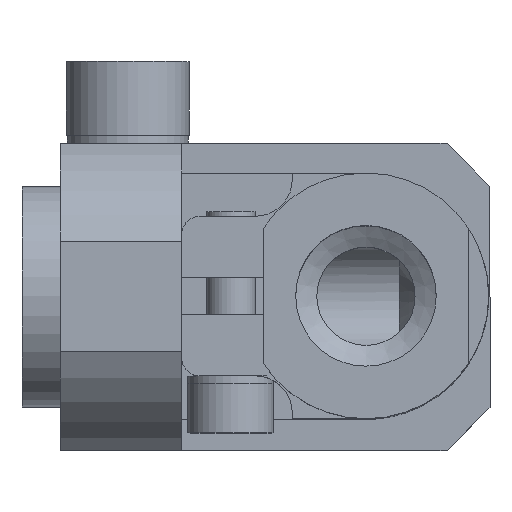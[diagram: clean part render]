
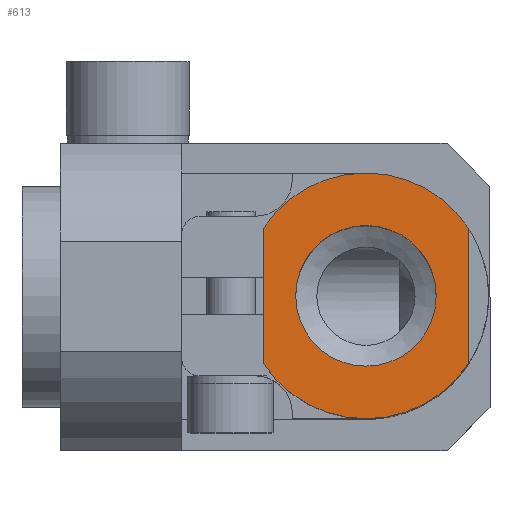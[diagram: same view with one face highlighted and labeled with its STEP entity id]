
A CAD part, top view. The second image highlights one B-rep face of the part: STEP entity #613.
In plain terms, the highlighted planar face has unit normal (0, 0, 1) as drawn and (0, -1, 0) by its records, which use the part's own axes.
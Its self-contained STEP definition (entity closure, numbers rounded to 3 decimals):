
#56 = ORIENTED_EDGE ( 'NONE', *, *, #737, .F. ) ;
#59 = LINE ( 'NONE', #2258, #629 ) ;
#98 = CARTESIAN_POINT ( 'NONE',  ( 0., -15., 0. ) ) ;
#114 = CARTESIAN_POINT ( 'NONE',  ( 8.352, -15., 5.5 ) ) ;
#290 = EDGE_CURVE ( 'NONE', #1087, #1412, #3168, .T. ) ;
#439 = AXIS2_PLACEMENT_3D ( 'NONE', #98, #2857, #3346 ) ;
#467 = EDGE_CURVE ( 'NONE', #1429, #1087, #1501, .T. ) ;
#471 = DIRECTION ( 'NONE',  ( 0., 0., -1. ) ) ;
#565 = EDGE_CURVE ( 'NONE', #1218, #1218, #960, .T. ) ;
#596 = FACE_OUTER_BOUND ( 'NONE', #618, .T. ) ;
#597 = DIRECTION ( 'NONE',  ( 0., 0., 1. ) ) ;
#613 = ADVANCED_FACE ( 'NONE', ( #2742, #596 ), #1440, .T. ) ;
#618 = EDGE_LOOP ( 'NONE', ( #1851, #3341, #56, #1497 ) ) ;
#629 = VECTOR ( 'NONE', #3119, 1000. ) ;
#737 = EDGE_CURVE ( 'NONE', #1412, #2678, #59, .T. ) ;
#786 = CARTESIAN_POINT ( 'NONE',  ( 8.352, -15., -5.5 ) ) ;
#940 = EDGE_LOOP ( 'NONE', ( #1941 ) ) ;
#960 = CIRCLE ( 'NONE', #2985, 5.722 ) ;
#1006 = VECTOR ( 'NONE', #3454, 1000. ) ;
#1087 = VERTEX_POINT ( 'NONE', #2107 ) ;
#1218 = VERTEX_POINT ( 'NONE', #3452 ) ;
#1361 = CARTESIAN_POINT ( 'NONE',  ( 0., -15., 0. ) ) ;
#1412 = VERTEX_POINT ( 'NONE', #114 ) ;
#1421 = CARTESIAN_POINT ( 'NONE',  ( 0., -15., 0. ) ) ;
#1429 = VERTEX_POINT ( 'NONE', #2375 ) ;
#1440 = PLANE ( 'NONE',  #439 ) ;
#1497 = ORIENTED_EDGE ( 'NONE', *, *, #290, .F. ) ;
#1501 = LINE ( 'NONE', #3469, #1006 ) ;
#1584 = CARTESIAN_POINT ( 'NONE',  ( 0., -15., 0. ) ) ;
#1851 = ORIENTED_EDGE ( 'NONE', *, *, #467, .F. ) ;
#1941 = ORIENTED_EDGE ( 'NONE', *, *, #565, .F. ) ;
#2107 = CARTESIAN_POINT ( 'NONE',  ( -8.352, -15., 5.5 ) ) ;
#2204 = DIRECTION ( 'NONE',  ( 0., 1., 0. ) ) ;
#2242 = CIRCLE ( 'NONE', #3571, 10. ) ;
#2258 = CARTESIAN_POINT ( 'NONE',  ( 8.352, -15., 5.5 ) ) ;
#2375 = CARTESIAN_POINT ( 'NONE',  ( -8.352, -15., -5.5 ) ) ;
#2397 = DIRECTION ( 'NONE',  ( 0., 1., 0. ) ) ;
#2450 = DIRECTION ( 'NONE',  ( 0., -1., 0. ) ) ;
#2678 = VERTEX_POINT ( 'NONE', #786 ) ;
#2742 = FACE_BOUND ( 'NONE', #940, .T. ) ;
#2776 = DIRECTION ( 'NONE',  ( 0., 0., 1. ) ) ;
#2857 = DIRECTION ( 'NONE',  ( 0., -1., 0. ) ) ;
#2985 = AXIS2_PLACEMENT_3D ( 'NONE', #1361, #2450, #471 ) ;
#3119 = DIRECTION ( 'NONE',  ( 0., 0., -1. ) ) ;
#3168 = CIRCLE ( 'NONE', #3557, 10. ) ;
#3341 = ORIENTED_EDGE ( 'NONE', *, *, #3520, .F. ) ;
#3346 = DIRECTION ( 'NONE',  ( 0., 0., -1. ) ) ;
#3452 = CARTESIAN_POINT ( 'NONE',  ( 0., -15., -5.722 ) ) ;
#3454 = DIRECTION ( 'NONE',  ( 0., 0., 1. ) ) ;
#3469 = CARTESIAN_POINT ( 'NONE',  ( -8.352, -15., 5.5 ) ) ;
#3520 = EDGE_CURVE ( 'NONE', #2678, #1429, #2242, .T. ) ;
#3557 = AXIS2_PLACEMENT_3D ( 'NONE', #1584, #2397, #2776 ) ;
#3571 = AXIS2_PLACEMENT_3D ( 'NONE', #1421, #2204, #597 ) ;
